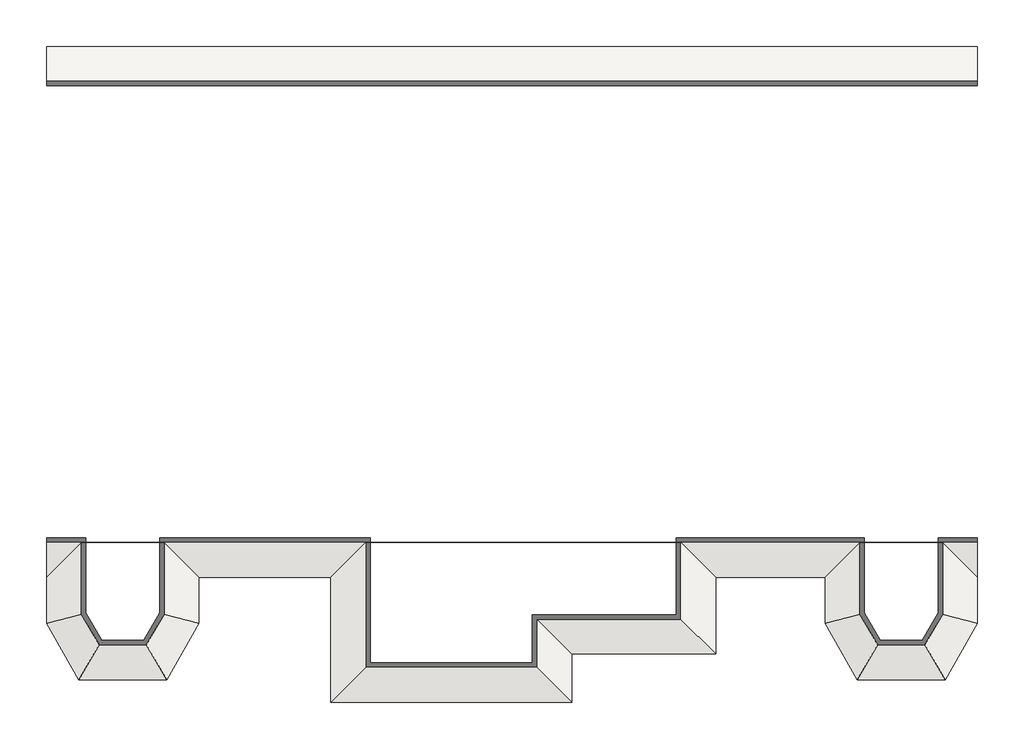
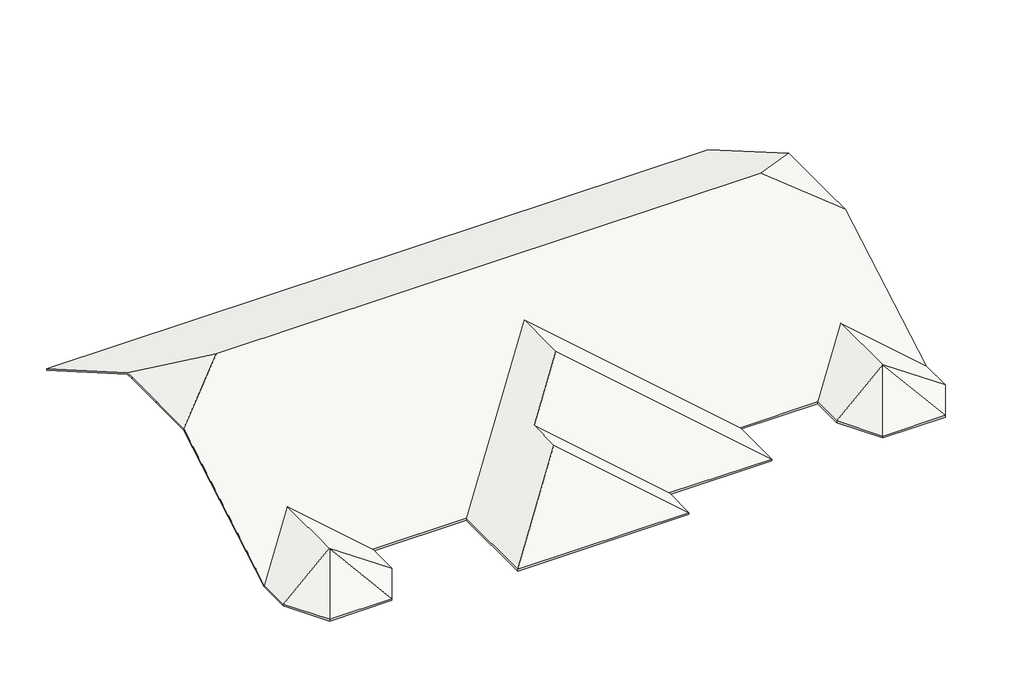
# One storey: 1 roof.
"""IFC4 building model written with IfcOpenShell, lengths in millimetres."""

from ifc_helpers import new_model, si_unit, origin, place, context, project, spatial, faceted_brep, element, save

model = new_model("IFC4")

# Units and contexts
model_context = context("Model", 3, world=origin())
ifc_project = project(units=[si_unit("LENGTHUNIT", "METRE", prefix="MILLI")], contexts=[model_context])

# Site, building, storey
site = spatial("IfcSite", under=ifc_project)
building = spatial("IfcBuilding", under=site)
storey = spatial("IfcBuildingStorey", under=building, Name="樓層 3", Elevation=6500.0)

# Roof
placement = place(None, origin())
element("IfcRoof", 1, ObjectType="一般 - 12cm", at=placement, inside=storey, context=model_context, shape_type="Brep", body=[
    faceted_brep([(-19625.7078943, 5752.3440967, 12500.0), (-19625.7078943, 6285.0392513, 12500.0), (-15122.3047315, 2677.3440967, 14582.9037687), (-19625.7078943, -930.3510579, 12500.0), (-19625.7078943, 2602.3440967, 12500.0), (-19625.7078943, -13761.6124004, 6500.0), (-15606.747554, -12684.7352228, 8820.3478343), (-15606.747554, -12722.6559033, 8809.4010768), (-17916.1486308, -16722.6559033, 6500.0), (21417.411085, -13761.6124004, 6500.0), (25436.3714252, -12684.7352228, 8820.3478343), (25436.3714252, -12722.6559033, 8809.4010768), (23126.9703485, -16722.6559033, 6500.0), (27745.772502, -16722.6559033, 6500.0), (29455.3317655, -13761.6124004, 6500.0), (-19625.7078943, -11322.6559033, 6500.0), (25289.5242282, 2677.3440967, 14582.9037687), (29455.3317655, -930.3510579, 12500.0), (29455.3317655, -11322.6559033, 6500.0), (25436.3714252, -7303.695563, 8820.3478343), (21417.411085, -11322.6559033, 6500.0), (15655.3317655, -11322.6559033, 6500.0), (5505.3317655, -1172.6559033, 12360.1052323), (-4644.6682345, -11322.6559033, 6500.0), (-11587.7872138, -11322.6559033, 6500.0), (-15606.747554, -7303.695563, 8820.3478343), (-19625.7078943, 16677.3440967, 6500.0), (29455.3317655, 16677.3440967, 6500.0), (29455.3317655, 6285.0392513, 12500.0), (-13297.3464773, -16722.6559033, 6500.0), (-11587.7872138, -13761.6124004, 6500.0), (5505.3317655, -5223.2655687, 12360.1052323), (1705.3317655, -9023.2655687, 10166.1742094), (1705.3317655, -11572.6559033, 10166.1742094), (-4644.6682345, -17922.6559033, 6500.0), (29455.3317655, 1102.3440967, 12500.0), (29455.3317655, 4252.3440967, 12500.0), (8055.3317655, -17922.6559033, 6500.0), (8055.3317655, -15373.2655687, 6500.0), (15655.3317655, -15373.2655687, 6500.0), (-19625.7078943, 5752.3440967, 12632.2137892), (-19625.7078943, 2602.3440967, 12632.2137892), (-19625.7078943, -941.3500575, 12632.2137892), (-15108.5749324, 2677.3440967, 14721.4678333), (-19625.7078943, 6296.038251, 12632.2137892), (-19625.7078943, -13761.6124004, 6638.5640646), (-17916.1486308, -16722.6559033, 6638.5640646), (-15606.747554, -12722.6559033, 8947.9651414), (-15606.747554, -12684.7352228, 8958.9118989), (21417.411085, -13761.6124004, 6638.5640646), (23126.9703485, -16722.6559033, 6638.5640646), (25436.3714252, -12722.6559033, 8947.9651414), (25436.3714252, -12684.7352228, 8958.9118989), (27745.772502, -16722.6559033, 6638.5640646), (29455.3317655, -13761.6124004, 6638.5640646), (-19625.7078943, -11322.6559033, 6638.5640646), (-15606.747554, -7303.695563, 8958.9118989), (-11587.7872138, -11322.6559033, 6638.5640646), (-4644.6682345, -11322.6559033, 6638.5640646), (5505.3317655, -1172.6559033, 12498.6692969), (15655.3317655, -11322.6559033, 6638.5640646), (21417.411085, -11322.6559033, 6638.5640646), (25436.3714252, -7303.695563, 8958.9118989), (29455.3317655, -11322.6559033, 6638.5640646), (29455.3317655, -937.9720571, 12634.1640787), (25280.7242563, 2677.3440967, 14721.4678333), (-19625.7078943, 16677.3440967, 6638.5640646), (29455.3317655, 6292.6602505, 12634.1640787), (29455.3317655, 16677.3440967, 6638.5640646), (-13297.3464773, -16722.6559033, 6638.5640646), (-11587.7872138, -13761.6124004, 6638.5640646), (-4644.6682345, -17922.6559033, 6638.5640646), (1705.3317655, -11572.6559033, 10304.738274), (1705.3317655, -9023.2655687, 10304.738274), (5505.3317655, -5223.2655687, 12498.6692969), (29455.3317655, 1102.3440967, 12634.1640787), (29455.3317655, 4252.3440967, 12634.1640787), (8055.3317655, -17922.6559033, 6638.5640646), (8055.3317655, -15373.2655687, 6638.5640646), (15655.3317655, -15373.2655687, 6638.5640646)], [[[0, 1, 2, 3, 4]], [[5, 6, 7, 8]], [[9, 10, 11, 12]], [[13, 11, 10, 14]], [[15, 3, 2, 16, 17, 18, 19, 20, 21, 22, 23, 24, 25]], [[26, 27, 28, 16, 2, 1]], [[29, 7, 6, 30]], [[8, 7, 29]], [[15, 25, 6, 5]], [[23, 22, 31, 32, 33, 34]], [[30, 6, 25, 24]], [[35, 17, 16, 28, 36]], [[37, 33, 32, 38]], [[34, 33, 37]], [[38, 32, 31, 39]], [[39, 31, 22, 21]], [[12, 11, 13]], [[20, 19, 10, 9]], [[14, 10, 19, 18]], [[40, 41, 42, 43, 44]], [[45, 46, 47, 48]], [[49, 50, 51, 52]], [[53, 54, 52, 51]], [[55, 56, 57, 58, 59, 60, 61, 62, 63, 64, 65, 43, 42]], [[66, 44, 43, 65, 67, 68]], [[69, 70, 48, 47]], [[46, 69, 47]], [[55, 45, 48, 56]], [[58, 71, 72, 73, 74, 59]], [[70, 57, 56, 48]], [[75, 76, 67, 65, 64]], [[77, 78, 73, 72]], [[71, 77, 72]], [[78, 79, 74, 73]], [[79, 60, 59, 74]], [[50, 53, 51]], [[61, 49, 52, 62]], [[54, 63, 62, 52]], [[5, 45, 55, 15]], [[8, 46, 45, 5]], [[29, 69, 46, 8]], [[30, 70, 69, 29]], [[24, 57, 70, 30]], [[23, 58, 57, 24]], [[34, 71, 58, 23]], [[37, 77, 71, 34]], [[38, 78, 77, 37]], [[39, 79, 78, 38]], [[21, 60, 79, 39]], [[20, 61, 60, 21]], [[9, 49, 61, 20]], [[12, 50, 49, 9]], [[13, 53, 50, 12]], [[14, 54, 53, 13]], [[18, 63, 54, 14]], [[26, 66, 68, 27]], [[40, 44, 66, 26, 1, 0]], [[75, 64, 63, 18, 17, 35]], [[41, 40, 0, 4]], [[55, 42, 41, 4, 3, 15]], [[68, 67, 76, 36, 28, 27]], [[76, 75, 35, 36]]]),
])

save(model, "model.ifc")
